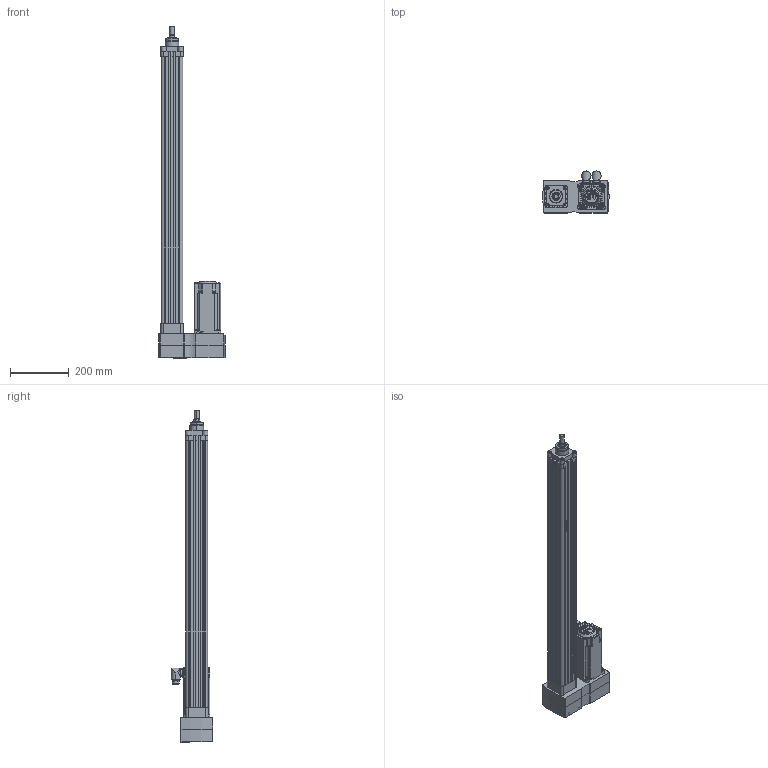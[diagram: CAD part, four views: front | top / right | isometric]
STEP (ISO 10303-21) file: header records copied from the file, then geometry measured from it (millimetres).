
FILE_DESCRIPTION (( 'STEP AP214' ), '1' );
FILE_NAME ('Rockwell Automation-$PARTNUMBER.STEP', '2015-07-10T14:32:54', ( 'Windows User' ), ( '' ), 'SwSTEP 2.0', 'SolidWorks 2015', '' );
FILE_SCHEMA (( 'AUTOMOTIVE_DESIGN' ));
Length unit declared in the file: millimetre
Products named in the file (16): Rockwell Automation-$PARTNUMBER_Rockwell Automation-MPAR-X3800E-M2E_MPAR-x3800x; Rockwell Automation-$PARTNUMBER_Rockwell Automation-MPAR-X3800E-M2E_PRT0014-543146; Rockwell Automation-$PARTNUMBER_Rockwell Automation-MPAR-X3800E-M2E_PRT0013-543146; Rockwell Automation-$PARTNUMBER_Rockwell Automation-MPAR-X3800E-M2E_MPL-x330F-M-X211_MPL-x330x-xJ72AA; Rockwell Automation-$PARTNUMBER_Rockwell Automation-MPAR-X3800E-M2E_MPL-x330x-xJ72AA_MPL-3xx-Encoder Connector; Rockwell Automation-$PARTNUMBER_Rockwell Automation-MPAR-X3800E-M2E_MPL-x330x-xJ72AA_MPL-3xx-Power Connector; Rockwell Automation-$PARTNUMBER_Rockwell Automation-MPAR-X3800E-M2E_MPL-x330x-xJ72AA_MPL-3xx-Shaft_330-keyed; Rockwell Automation-$PARTNUMBER_Rockwell Automation-MPAR-X3800E-M2E_MPL-x330x-xJ72AA_MPL-3xx-Body_330; Rockwell Automation-$PARTNUMBER_Rockwell Automation-MPAR-X3800E-M2E_627503; Rockwell Automation-$PARTNUMBER_Rockwell Automation-MPAR-X3800E-M2E_627503_1202981__ASM; Rockwell Automation-$PARTNUMBER_Rockwell Automation-MPAR-X3800E-M2E_627503_1202486; Rockwell Automation-$PARTNUMBER_Rockwell Automation-MPAR-X3800E-M2E_627503_200687_3; Rockwell Automation-$PARTNUMBER_Rockwell Automation-MPAR-X3800E-M2E_627503_215990; Rockwell Automation-$PARTNUMBER_Rockwell Automation-MPAR-X3800E-M2E_627503_354152_3; Rockwell Automation-$PARTNUMBER_Rockwell Automation-MPAR-X3800E-M2E_627503_1202519; Rockwell Automation-$PARTNUMBER
Assembly tree (25 placements, depth 4):
  Rockwell Automation-$PARTNUMBER
    Rockwell Automation-$PARTNUMBER_Rockwell Automation-MPAR-X3800E-M2E_627503
      Rockwell Automation-$PARTNUMBER_Rockwell Automation-MPAR-X3800E-M2E_627503_1202981__ASM
        Rockwell Automation-$PARTNUMBER_Rockwell Automation-MPAR-X3800E-M2E_627503_1202519
        Rockwell Automation-$PARTNUMBER_Rockwell Automation-MPAR-X3800E-M2E_627503_354152_3  x4
        Rockwell Automation-$PARTNUMBER_Rockwell Automation-MPAR-X3800E-M2E_627503_215990  x5
        Rockwell Automation-$PARTNUMBER_Rockwell Automation-MPAR-X3800E-M2E_627503_200687_3  x4
        Rockwell Automation-$PARTNUMBER_Rockwell Automation-MPAR-X3800E-M2E_627503_1202486
    Rockwell Automation-$PARTNUMBER_Rockwell Automation-MPAR-X3800E-M2E_MPL-x330F-M-X211_MPL-x330x-xJ72AA
      Rockwell Automation-$PARTNUMBER_Rockwell Automation-MPAR-X3800E-M2E_MPL-x330x-xJ72AA_MPL-3xx-Body_330
      Rockwell Automation-$PARTNUMBER_Rockwell Automation-MPAR-X3800E-M2E_MPL-x330x-xJ72AA_MPL-3xx-Shaft_330-keyed
      Rockwell Automation-$PARTNUMBER_Rockwell Automation-MPAR-X3800E-M2E_MPL-x330x-xJ72AA_MPL-3xx-Power Connector
      Rockwell Automation-$PARTNUMBER_Rockwell Automation-MPAR-X3800E-M2E_MPL-x330x-xJ72AA_MPL-3xx-Encoder Connector
    Rockwell Automation-$PARTNUMBER_Rockwell Automation-MPAR-X3800E-M2E_MPAR-x3800x
      Rockwell Automation-$PARTNUMBER_Rockwell Automation-MPAR-X3800E-M2E_PRT0013-543146
      Rockwell Automation-$PARTNUMBER_Rockwell Automation-MPAR-X3800E-M2E_PRT0014-543146
Bounding box: 224.58 x 142.38 x 1128 mm (x, y, z)
Volume: 5478367.7 mm3; surface area: 994963.8 mm2
Topology: 22 solids, 22 shells, 2008 faces, 5129 edges, 3299 vertices
Faces by surface type: plane 789, cylinder 717, cone 302, bspline 112, torus 88
Entity records: 63026 total; most frequent: CARTESIAN_POINT 20291, ORIENTED_EDGE 8856, DIRECTION 8175, EDGE_CURVE 4428, AXIS2_PLACEMENT_3D 2985, VERTEX_POINT 2879, VECTOR 2205, LINE 2205
